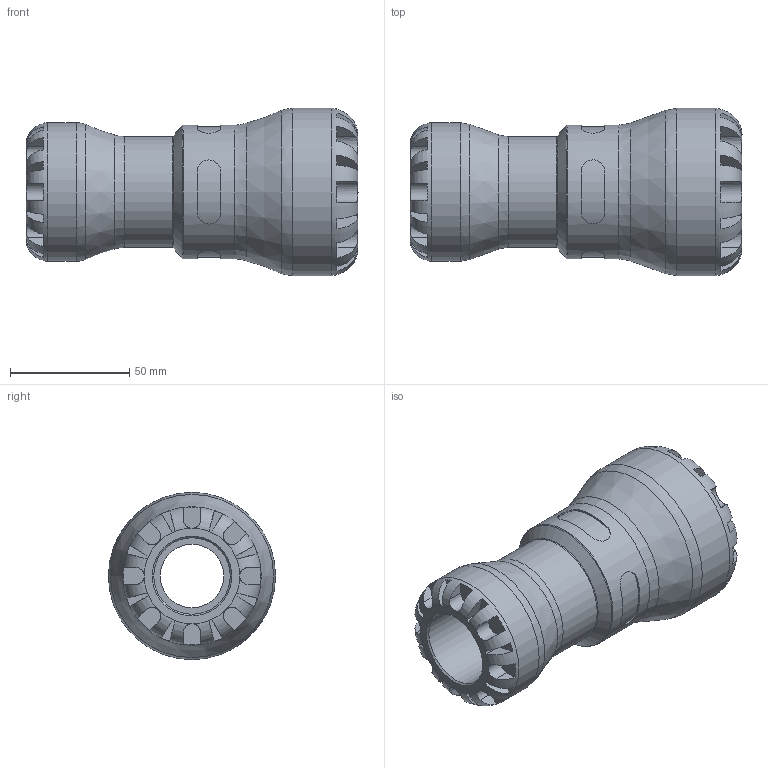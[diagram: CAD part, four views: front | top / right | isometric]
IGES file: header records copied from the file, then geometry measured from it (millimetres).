
Global section: file name: 101100040032_191100040032.ipt; native system: Autodesk Inventor 2015; preprocessor: unknown; author: KIM; date: 20190627.094238; units: millimetre
Bounding box: 139 x 70 x 70 mm (x, y, z)
Volume: 215727.8 mm3; surface area: 48946 mm2
Topology: 1 solids, 1 shells, 172 faces, 451 edges, 286 vertices
Faces by surface type: plane 108, revolution 37, cylinder 24, cone 3
Full cylindrical faces by diameter (mm): 46.4 x1, 56 x1, 58 x1, 70 x1
